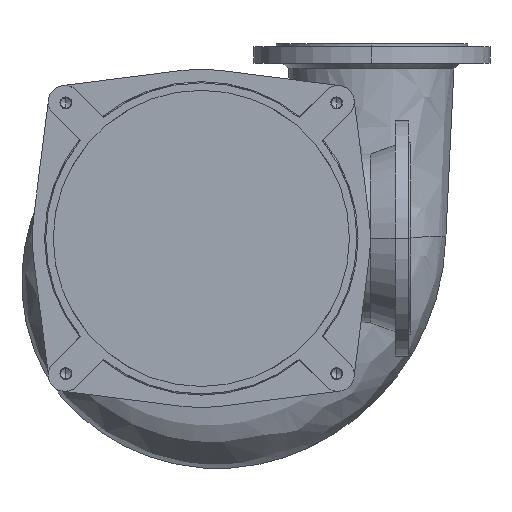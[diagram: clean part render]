
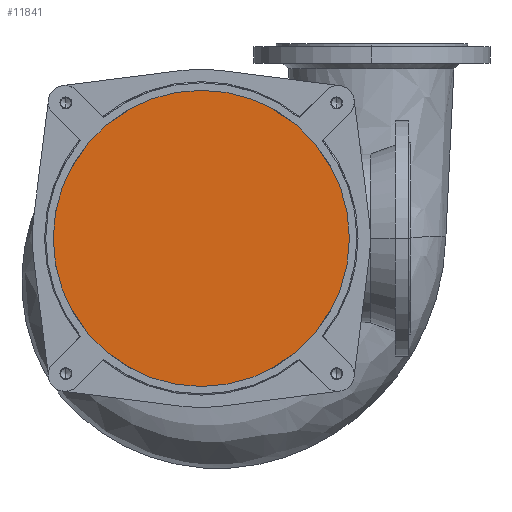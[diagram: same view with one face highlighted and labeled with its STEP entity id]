
A CAD part, front view. The second image highlights one B-rep face of the part: STEP entity #11841.
In plain terms, the highlighted planar face has unit normal (0, -1, 0).
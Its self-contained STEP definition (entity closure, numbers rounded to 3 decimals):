
#4752=CARTESIAN_POINT('',(0.,0.,0.));
#4753=DIRECTION('',(0.,-1.,0.));
#4754=DIRECTION('',(0.,0.,1.));
#4755=AXIS2_PLACEMENT_3D('',#4752,#4753,#4754);
#4757=CARTESIAN_POINT('',(0.,0.,0.));
#4758=DIRECTION('',(0.,-1.,0.));
#4759=DIRECTION('',(0.,0.,-1.));
#4760=AXIS2_PLACEMENT_3D('',#4757,#4758,#4759);
#10794=CARTESIAN_POINT('',(0.,0.,247.5));
#10795=CARTESIAN_POINT('',(0.,0.,-247.5));
#10796=VERTEX_POINT('',#10794);
#10797=VERTEX_POINT('',#10795);
#11830=CARTESIAN_POINT('',(0.,0.,0.));
#11831=DIRECTION('',(0.,1.,0.));
#11832=DIRECTION('',(0.,0.,-1.));
#11833=AXIS2_PLACEMENT_3D('',#11830,#11831,#11832);
#11834=PLANE('',#11833);
#11836=ORIENTED_EDGE('',*,*,#11835,.F.);
#11838=ORIENTED_EDGE('',*,*,#11837,.F.);
#11839=EDGE_LOOP('',(#11836,#11838));
#11840=FACE_OUTER_BOUND('',#11839,.F.);
#11841=ADVANCED_FACE('',(#11840),#11834,.F.);
#4756=CIRCLE('',#4755,247.5);
#4761=CIRCLE('',#4760,247.5);
#11835=EDGE_CURVE('',#10796,#10797,#4756,.T.);
#11837=EDGE_CURVE('',#10797,#10796,#4761,.T.);
